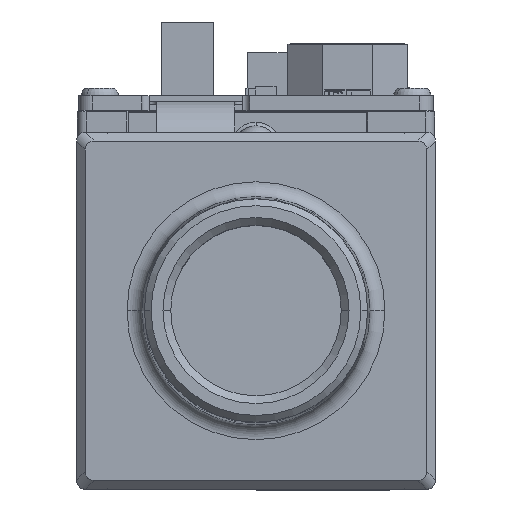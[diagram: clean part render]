
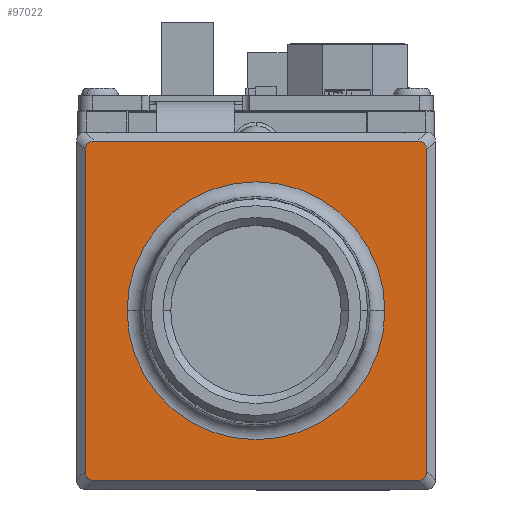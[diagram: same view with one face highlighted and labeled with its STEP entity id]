
A CAD part, top view. The second image highlights one B-rep face of the part: STEP entity #97022.
In plain terms, the highlighted planar face has unit normal (0, 0, 1).
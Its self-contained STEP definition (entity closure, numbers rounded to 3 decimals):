
#1368 = DIRECTION ( 'NONE',  ( -1., 0., 0. ) ) ;
#3532 = VERTEX_POINT ( 'NONE', #37518 ) ;
#4523 = CARTESIAN_POINT ( 'NONE',  ( -11.255, 11.4, 8. ) ) ;
#5373 = EDGE_CURVE ( 'NONE', #53459, #41721, #54007, .T. ) ;
#5953 = CARTESIAN_POINT ( 'NONE',  ( 11.475, 10.794, 8. ) ) ;
#7308 = CARTESIAN_POINT ( 'NONE',  ( 11.475, 0., 8. ) ) ;
#8017 = CARTESIAN_POINT ( 'NONE',  ( -11.475, 10.794, 8. ) ) ;
#13545 = CARTESIAN_POINT ( 'NONE',  ( 8.666, 0., 8. ) ) ;
#14891 = CIRCLE ( 'NONE', #26155, 8.666 ) ;
#15092 = DIRECTION ( 'NONE',  ( 0., 1., 0. ) ) ;
#16540 = CARTESIAN_POINT ( 'NONE',  ( 11.475, -11.178, 8. ) ) ;
#16774 =( BOUNDED_CURVE ( )  B_SPLINE_CURVE ( 3, ( #5953, #69298, #79848, #47482 ),
 .UNSPECIFIED., .F., .T. ) 
 B_SPLINE_CURVE_WITH_KNOTS ( ( 4, 4 ),
 ( 5.749, 6.802 ),
 .UNSPECIFIED. ) 
 CURVE ( )  GEOMETRIC_REPRESENTATION_ITEM ( )  RATIONAL_B_SPLINE_CURVE ( ( 1., 0.91, 0.91, 1. ) ) 
 REPRESENTATION_ITEM ( '' )  );
#18804 =( BOUNDED_CURVE ( )  B_SPLINE_CURVE ( 3, ( #34831, #4523, #77767, #8017 ),
 .UNSPECIFIED., .F., .F. ) 
 B_SPLINE_CURVE_WITH_KNOTS ( ( 4, 4 ),
 ( 2.623, 3.675 ),
 .UNSPECIFIED. ) 
 CURVE ( )  GEOMETRIC_REPRESENTATION_ITEM ( )  RATIONAL_B_SPLINE_CURVE ( ( 1., 0.91, 0.91, 1. ) ) 
 REPRESENTATION_ITEM ( '' )  );
#22469 = CARTESIAN_POINT ( 'NONE',  ( 0., 11.4, 8. ) ) ;
#22968 = CARTESIAN_POINT ( 'NONE',  ( -11.255, -11.4, 8. ) ) ;
#23042 = CARTESIAN_POINT ( 'NONE',  ( -11.475, 0., 8. ) ) ;
#23675 = CARTESIAN_POINT ( 'NONE',  ( -11.475, -10.794, 8. ) ) ;
#24326 = CARTESIAN_POINT ( 'NONE',  ( 11.255, -11.4, 8. ) ) ;
#25102 = EDGE_CURVE ( 'NONE', #72387, #61455, #16774, .T. ) ;
#26155 = AXIS2_PLACEMENT_3D ( 'NONE', #103992, #115241, #92732 ) ;
#31583 = VECTOR ( 'NONE', #111739, 1000. ) ;
#32592 = DIRECTION ( 'NONE',  ( -1., 0., 0. ) ) ;
#34218 = CARTESIAN_POINT ( 'NONE',  ( -10.874, -11.4, 8. ) ) ;
#34792 = ORIENTED_EDGE ( 'NONE', *, *, #46512, .T. ) ;
#34831 = CARTESIAN_POINT ( 'NONE',  ( -10.874, 11.4, 8. ) ) ;
#35872 = EDGE_CURVE ( 'NONE', #86602, #114188, #14891, .T. ) ;
#37518 = CARTESIAN_POINT ( 'NONE',  ( 11.475, -10.794, 8. ) ) ;
#37943 = ORIENTED_EDGE ( 'NONE', *, *, #85994, .T. ) ;
#41721 = VERTEX_POINT ( 'NONE', #72994 ) ;
#43128 = ORIENTED_EDGE ( 'NONE', *, *, #76599, .T. ) ;
#43882 = CIRCLE ( 'NONE', #64146, 8.666 ) ;
#46512 = EDGE_CURVE ( 'NONE', #138097, #53459, #18804, .T. ) ;
#47418 = CARTESIAN_POINT ( 'NONE',  ( -10.874, 11.4, 8. ) ) ;
#47482 = CARTESIAN_POINT ( 'NONE',  ( 10.874, 11.4, 8. ) ) ;
#47683 = CARTESIAN_POINT ( 'NONE',  ( -11.475, 10.794, 8. ) ) ;
#47730 = FACE_OUTER_BOUND ( 'NONE', #73843, .T. ) ;
#48024 = ORIENTED_EDGE ( 'NONE', *, *, #25102, .T. ) ;
#50012 =( BOUNDED_CURVE ( )  B_SPLINE_CURVE ( 3, ( #112950, #24326, #16540, #59434 ),
 .UNSPECIFIED., .F., .T. ) 
 B_SPLINE_CURVE_WITH_KNOTS ( ( 4, 4 ),
 ( 5.765, 6.817 ),
 .UNSPECIFIED. ) 
 CURVE ( )  GEOMETRIC_REPRESENTATION_ITEM ( )  RATIONAL_B_SPLINE_CURVE ( ( 1., 0.91, 0.91, 1. ) ) 
 REPRESENTATION_ITEM ( '' )  );
#53459 = VERTEX_POINT ( 'NONE', #47683 ) ;
#54007 = LINE ( 'NONE', #23042, #59955 ) ;
#54410 = CARTESIAN_POINT ( 'NONE',  ( 0., 0., 8. ) ) ;
#55315 = VECTOR ( 'NONE', #15092, 1000. ) ;
#55487 = CARTESIAN_POINT ( 'NONE',  ( -10.874, -11.4, 8. ) ) ;
#57408 = VECTOR ( 'NONE', #1368, 1000. ) ;
#59434 = CARTESIAN_POINT ( 'NONE',  ( 11.475, -10.794, 8. ) ) ;
#59955 = VECTOR ( 'NONE', #99021, 1000. ) ;
#60361 = DIRECTION ( 'NONE',  ( 0., 0., -1. ) ) ;
#61455 = VERTEX_POINT ( 'NONE', #122619 ) ;
#64146 = AXIS2_PLACEMENT_3D ( 'NONE', #54410, #118480, #32592 ) ;
#69298 = CARTESIAN_POINT ( 'NONE',  ( 11.475, 11.178, 8. ) ) ;
#69696 = ORIENTED_EDGE ( 'NONE', *, *, #96297, .T. ) ;
#72387 = VERTEX_POINT ( 'NONE', #124433 ) ;
#72994 = CARTESIAN_POINT ( 'NONE',  ( -11.475, -10.794, 8. ) ) ;
#73448 =( BOUNDED_CURVE ( )  B_SPLINE_CURVE ( 3, ( #23675, #119398, #22968, #34218 ),
 .UNSPECIFIED., .F., .T. ) 
 B_SPLINE_CURVE_WITH_KNOTS ( ( 4, 4 ),
 ( 2.608, 3.66 ),
 .UNSPECIFIED. ) 
 CURVE ( )  GEOMETRIC_REPRESENTATION_ITEM ( )  RATIONAL_B_SPLINE_CURVE ( ( 1., 0.91, 0.91, 1. ) ) 
 REPRESENTATION_ITEM ( '' )  );
#73843 = EDGE_LOOP ( 'NONE', ( #43128, #100757, #37943, #48024, #83890, #34792, #73888, #101632 ) ) ;
#73888 = ORIENTED_EDGE ( 'NONE', *, *, #5373, .T. ) ;
#76599 = EDGE_CURVE ( 'NONE', #83147, #108593, #78665, .T. ) ;
#77767 = CARTESIAN_POINT ( 'NONE',  ( -11.475, 11.178, 8. ) ) ;
#78665 = LINE ( 'NONE', #113126, #31583 ) ;
#79848 = CARTESIAN_POINT ( 'NONE',  ( 11.255, 11.4, 8. ) ) ;
#83147 = VERTEX_POINT ( 'NONE', #55487 ) ;
#83890 = ORIENTED_EDGE ( 'NONE', *, *, #112772, .T. ) ;
#85994 = EDGE_CURVE ( 'NONE', #3532, #72387, #102331, .T. ) ;
#86602 = VERTEX_POINT ( 'NONE', #116199 ) ;
#90648 = PLANE ( 'NONE',  #118334 ) ;
#91527 = ORIENTED_EDGE ( 'NONE', *, *, #35872, .T. ) ;
#92732 = DIRECTION ( 'NONE',  ( -1., 0., 0. ) ) ;
#92746 = EDGE_LOOP ( 'NONE', ( #91527, #69696 ) ) ;
#96297 = EDGE_CURVE ( 'NONE', #114188, #86602, #43882, .T. ) ;
#97022 = ADVANCED_FACE ( 'NONE', ( #122344, #47730 ), #90648, .F. ) ;
#99021 = DIRECTION ( 'NONE',  ( 0., -1., 0. ) ) ;
#100757 = ORIENTED_EDGE ( 'NONE', *, *, #132220, .T. ) ;
#101632 = ORIENTED_EDGE ( 'NONE', *, *, #134559, .T. ) ;
#102331 = LINE ( 'NONE', #7308, #55315 ) ;
#103992 = CARTESIAN_POINT ( 'NONE',  ( 0., 0., 8. ) ) ;
#106447 = CARTESIAN_POINT ( 'NONE',  ( 10.874, -11.4, 8. ) ) ;
#108593 = VERTEX_POINT ( 'NONE', #106447 ) ;
#111739 = DIRECTION ( 'NONE',  ( 1., 0., 0. ) ) ;
#112475 = DIRECTION ( 'NONE',  ( -1., 0., 0. ) ) ;
#112772 = EDGE_CURVE ( 'NONE', #61455, #138097, #130864, .T. ) ;
#112950 = CARTESIAN_POINT ( 'NONE',  ( 10.874, -11.4, 8. ) ) ;
#113126 = CARTESIAN_POINT ( 'NONE',  ( 0., -11.4, 8. ) ) ;
#113888 = CARTESIAN_POINT ( 'NONE',  ( 0., 0., 8. ) ) ;
#114188 = VERTEX_POINT ( 'NONE', #13545 ) ;
#115241 = DIRECTION ( 'NONE',  ( 0., 0., -1. ) ) ;
#116199 = CARTESIAN_POINT ( 'NONE',  ( -8.666, 0., 8. ) ) ;
#118334 = AXIS2_PLACEMENT_3D ( 'NONE', #113888, #60361, #112475 ) ;
#118480 = DIRECTION ( 'NONE',  ( 0., 0., -1. ) ) ;
#119398 = CARTESIAN_POINT ( 'NONE',  ( -11.475, -11.178, 8. ) ) ;
#122344 = FACE_BOUND ( 'NONE', #92746, .T. ) ;
#122619 = CARTESIAN_POINT ( 'NONE',  ( 10.874, 11.4, 8. ) ) ;
#124433 = CARTESIAN_POINT ( 'NONE',  ( 11.475, 10.794, 8. ) ) ;
#130864 = LINE ( 'NONE', #22469, #57408 ) ;
#132220 = EDGE_CURVE ( 'NONE', #108593, #3532, #50012, .T. ) ;
#134559 = EDGE_CURVE ( 'NONE', #41721, #83147, #73448, .T. ) ;
#138097 = VERTEX_POINT ( 'NONE', #47418 ) ;
